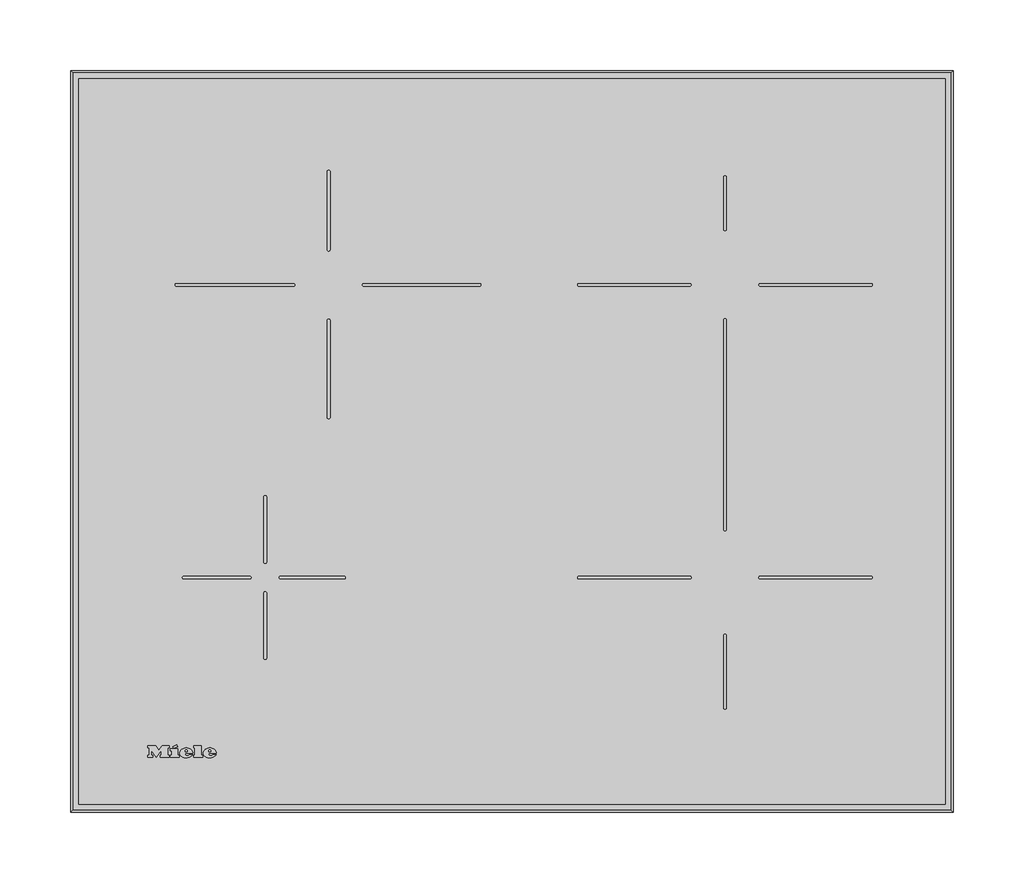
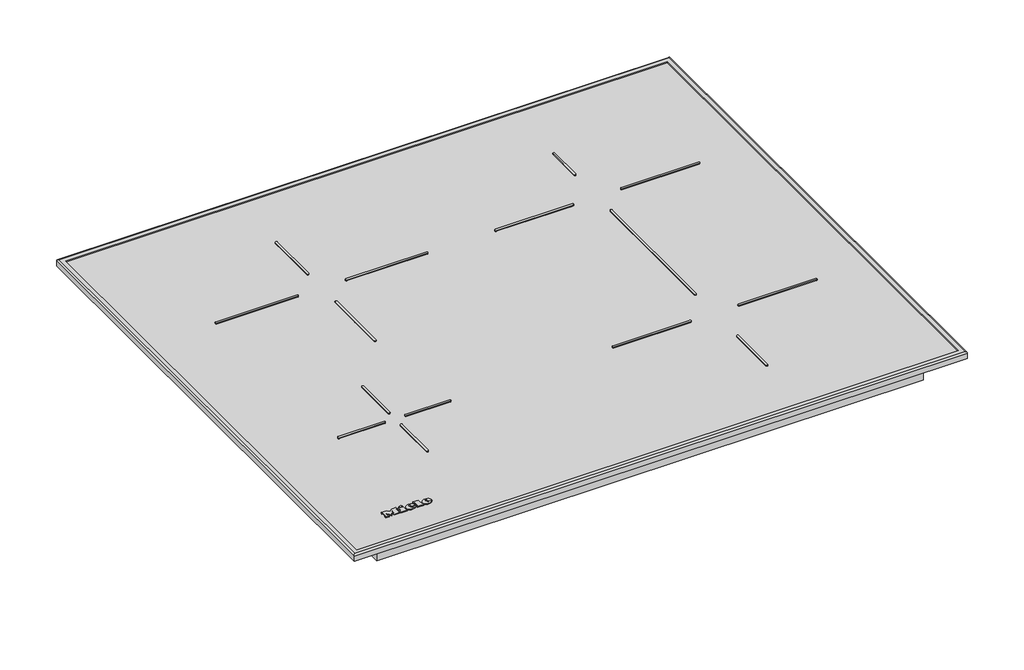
# Not in any storey: 1 proxy.
"""IFC4 building model written with IfcOpenShell, lengths in millimetres."""

import ifcopenshell
import ifcopenshell.guid

model = None  # the IFC model being written
_history = None  # IfcOwnerHistory: only IFC2X3 demands one
_inside = {}  # id of a spatial element -> (the spatial element, [elements in it])
_under = {}  # id of a project, library or spatial element -> (it, [spatial elements below it])
_declared = {}  # id of a project -> (the project, [libraries it declares])
_typed = {}  # id of a type object -> (the type object, [elements of that type])
_made_of = {}  # id of a material, layer set ... -> (it, [elements and type objects made of it])


def new_model(schema):
    """Start an empty IFC model of exactly this schema.

    Asked for "IFC4X3", IfcOpenShell would pick the latest addendum, in which some entities
    have other attributes; the version numbers below select the first issue.
    IFC2X3 requires an IfcOwnerHistory on every rooted entity: one is made here for all.
    """
    global model, _history
    if schema == "IFC4X3":
        model = ifcopenshell.file(schema_version=(4, 3, 0, 0))
    else:
        model = ifcopenshell.file(schema=schema)
    _inside.clear()
    _under.clear()
    _declared.clear()
    _typed.clear()
    _made_of.clear()
    _history = None
    if model.schema == "IFC2X3":
        org = make("IfcOrganization", Name="unknown")
        user = make(
            "IfcPersonAndOrganization",
            ThePerson=make("IfcPerson", FamilyName="unknown"),
            TheOrganization=org,
        )
        app = make(
            "IfcApplication",
            ApplicationDeveloper=org,
            Version="unknown",
            ApplicationFullName="unknown",
            ApplicationIdentifier="unknown",
        )
        _history = make(
            "IfcOwnerHistory",
            OwningUser=user,
            OwningApplication=app,
            ChangeAction="ADDED",
            CreationDate=0,
        )
    return model


def make(cls, **values):
    """One entity of the class cls with the attributes given. An attribute that is None is left unset."""
    return model.create_entity(
        cls, **{name: value for name, value in values.items() if value is not None}
    )


def rooted(cls, **values):
    """An entity with a GlobalId (a new one), such as an element, a storey or a relation."""
    return make(cls, GlobalId=ifcopenshell.guid.new(), OwnerHistory=_history, **values)


def si_unit(unit_type, name, prefix=None):
    """IfcSIUnit, for example si_unit("LENGTHUNIT", "METRE", prefix="MILLI")."""
    return make("IfcSIUnit", UnitType=unit_type, Prefix=prefix, Name=name)


def assignment(units):
    """IfcUnitAssignment: the units of a project."""
    return None if units is None else make("IfcUnitAssignment", Units=units)


def point(xyz):
    """IfcCartesianPoint."""
    return None if xyz is None else make("IfcCartesianPoint", Coordinates=xyz)


def direction(xyz):
    """IfcDirection."""
    return None if xyz is None else make("IfcDirection", DirectionRatios=xyz)


def frame(location, z_axis=None, x_axis=None):
    """IfcAxis2Placement3D, a coordinate frame: its origin and axes. An axis left out is left unset."""
    return make(
        "IfcAxis2Placement3D",
        Location=point(location),
        Axis=direction(z_axis),
        RefDirection=direction(x_axis),
    )


def frame_2d(location, x_axis=None):
    """IfcAxis2Placement2D, a coordinate frame in the plane: its origin and x axis."""
    return make(
        "IfcAxis2Placement2D", Location=point(location), RefDirection=direction(x_axis)
    )


def origin():
    """The frame at (0, 0, 0) with its axes left unset."""
    return frame((0.0, 0.0, 0.0))


def origin_with_axes():
    """The frame at (0, 0, 0) with the z axis (0, 0, 1) and the x axis (1, 0, 0) written out."""
    return frame((0.0, 0.0, 0.0), z_axis=(0.0, 0.0, 1.0), x_axis=(1.0, 0.0, 0.0))


def place(relative_to, where):
    """IfcLocalPlacement: puts the frame where relative to a parent placement (None: the world)."""
    return make(
        "IfcLocalPlacement", PlacementRelTo=relative_to, RelativePlacement=where
    )


def context(
    kind, dimensions, precision=None, world=None, true_north=None, identifier=None
):
    """IfcGeometricRepresentationContext, for example the 3D "Model" context."""
    return make(
        "IfcGeometricRepresentationContext",
        ContextIdentifier=identifier,
        ContextType=kind,
        CoordinateSpaceDimension=dimensions,
        Precision=precision,
        WorldCoordinateSystem=world,
        TrueNorth=true_north,
    )


def project(units=None, contexts=None):
    """IfcProject with its units and contexts."""
    return rooted(
        "IfcProject",
        Name="project",
        RepresentationContexts=contexts,
        UnitsInContext=assignment(units),
    )


def spatial(cls, under=None, at=None, **own):
    """A site, building, storey or space (cls), placed at a placement, below another one or the project."""
    s = rooted(cls, ObjectPlacement=at, **own)
    if under is not None:
        _under.setdefault(under.id(), (under, []))[1].append(s)
    return s


def polyline(points):
    """IfcPolyline through the points."""
    return make("IfcPolyline", Points=[point(p) for p in points])


def circle_curve(where, radius):
    """IfcCircle in the frame where."""
    return make("IfcCircle", Position=where, Radius=radius)


def ellipse_curve(where, semi_axis1, semi_axis2):
    """IfcEllipse in the frame where."""
    return make(
        "IfcEllipse", Position=where, SemiAxis1=semi_axis1, SemiAxis2=semi_axis2
    )


def trimmed(basis, trim1, trim2, sense, master):
    """IfcTrimmedCurve: the piece of a basis curve between two trims."""
    return make(
        "IfcTrimmedCurve",
        BasisCurve=basis,
        Trim1=trim1,
        Trim2=trim2,
        SenseAgreement=sense,
        MasterRepresentation=master,
    )


def segment(curve, same_sense, transition):
    """IfcCompositeCurveSegment."""
    return make(
        "IfcCompositeCurveSegment",
        Transition=transition,
        SameSense=same_sense,
        ParentCurve=curve,
    )


def composite_curve(segments, self_intersect=None):
    """IfcCompositeCurve: segments joined end to end."""
    return make("IfcCompositeCurve", Segments=segments, SelfIntersect=self_intersect)


def outline(outer, holes=None, kind="AREA"):
    """IfcArbitraryClosedProfileDef: a profile drawn as a closed curve; with holes, ...WithVoids."""
    if holes is None:
        return make("IfcArbitraryClosedProfileDef", ProfileType=kind, OuterCurve=outer)
    return make(
        "IfcArbitraryProfileDefWithVoids",
        ProfileType=kind,
        OuterCurve=outer,
        InnerCurves=holes,
    )


def extrude(swept, where, along, depth):
    """IfcExtrudedAreaSolid: the profile swept, set in the frame where, extruded along a direction by depth."""
    return make(
        "IfcExtrudedAreaSolid",
        SweptArea=swept,
        Position=where,
        ExtrudedDirection=direction(along),
        Depth=depth,
    )


def shape(context_of_items, identifier, shape_type, items):
    """IfcShapeRepresentation: the items that make up one representation, for example the "Body"."""
    return make(
        "IfcShapeRepresentation",
        ContextOfItems=context_of_items,
        RepresentationIdentifier=identifier,
        RepresentationType=shape_type,
        Items=items,
    )


def source(mapping_origin, context_of_items, identifier, shape_type, items):
    """IfcRepresentationMap: a shape defined once, which mapped items show again and again."""
    return make(
        "IfcRepresentationMap",
        MappingOrigin=mapping_origin,
        MappedRepresentation=shape(context_of_items, identifier, shape_type, items),
    )


def transform(
    local_origin,
    x_axis=None,
    y_axis=None,
    z_axis=None,
    scale=None,
    scale2=None,
    scale3=None,
    uniform=True,
):
    """IfcCartesianTransformationOperator3D, or its non-uniform kind. x_axis, y_axis, z_axis: its Axis1, 2, 3."""
    if uniform:
        return make(
            "IfcCartesianTransformationOperator3D",
            Axis1=direction(x_axis),
            Axis2=direction(y_axis),
            LocalOrigin=point(local_origin),
            Scale=scale,
            Axis3=direction(z_axis),
        )
    return make(
        "IfcCartesianTransformationOperator3DnonUniform",
        Axis1=direction(x_axis),
        Axis2=direction(y_axis),
        LocalOrigin=point(local_origin),
        Scale=scale,
        Axis3=direction(z_axis),
        Scale2=scale2,
        Scale3=scale3,
    )


def mapped(mapping_source, mapping_target):
    """IfcMappedItem: shows the shape of a source again, moved by a transform."""
    return make(
        "IfcMappedItem", MappingSource=mapping_source, MappingTarget=mapping_target
    )


def made_of(thing, what):
    """Note that an element or type object is made of a material, layer set ...; save() writes the relation."""
    if what is not None:
        _made_of.setdefault(what.id(), (what, []))[1].append(thing)
    return thing


def element(
    cls,
    number,
    at=None,
    inside=None,
    cuts=None,
    type_object=None,
    material=None,
    context=None,
    identifier="Body",
    shape_type=None,
    held_by="IfcProductDefinitionShape",
    body=None,
    shapes=None,
    **own,
):
    """One element of the class cls, such as IfcWall. Its Tag is "e" and its number.

    at: its placement. inside: the storey or other place that contains it. cuts: it is an
    opening in that element (IfcRelVoidsElement). A single representation is given by context,
    identifier, shape_type and body (its items); several are given by shapes. held_by: the class
    of the entity that holds the representations. save() writes the other relations.
    """
    e = rooted(cls, Tag="e%d" % number, ObjectPlacement=at, **own)
    if body is not None:
        shapes = [shape(context, identifier, shape_type, body)]
    if shapes is not None:
        e.Representation = make(held_by, Representations=shapes)
    if inside is not None:
        _inside.setdefault(inside.id(), (inside, []))[1].append(e)
    if cuts is not None:
        rooted(
            "IfcRelVoidsElement", RelatingBuildingElement=cuts, RelatedOpeningElement=e
        )
    if type_object is not None:
        _typed.setdefault(type_object.id(), (type_object, []))[1].append(e)
    return made_of(e, material)


def aggregate(whole, parts):
    """IfcRelAggregates: a whole, such as a stair, and the parts it consists of."""
    return rooted("IfcRelAggregates", RelatingObject=whole, RelatedObjects=parts)


def save(model, path):
    """Write the relations noted so far, then the file.

    IfcRelAggregates (storeys below a building ...), IfcRelContainedInSpatialStructure (elements
    in a storey), IfcRelDefinesByType, IfcRelAssociatesMaterial and IfcRelDeclares: one each for
    every whole, place, type object, material and project.
    """
    for whole, parts in _under.values():
        aggregate(whole, parts)
    for where, things in _inside.values():
        rooted(
            "IfcRelContainedInSpatialStructure",
            RelatedElements=things,
            RelatingStructure=where,
        )
    for kind, things in _typed.values():
        rooted("IfcRelDefinesByType", RelatedObjects=things, RelatingType=kind)
    for what, things in _made_of.values():
        rooted("IfcRelAssociatesMaterial", RelatedObjects=things, RelatingMaterial=what)
    for by, libraries in _declared.values():
        rooted("IfcRelDeclares", RelatingContext=by, RelatedDefinitions=libraries)
    model.write(path)


def plane_surface(at):
    """IfcPlane: the flat surface through the origin of the frame at, square to its z axis."""
    return make("IfcPlane", Position=at)


def cylinder_surface(at, radius):
    """IfcCylindricalSurface: all points at the distance radius from the z axis of the frame at."""
    return make("IfcCylindricalSurface", Position=at, Radius=radius)


def revolved_surface(curve, axis_point, axis_direction):
    """IfcSurfaceOfRevolution: the curve turned about the line through axis_point along axis_direction."""
    return make(
        "IfcSurfaceOfRevolution",
        SweptCurve=make("IfcArbitraryOpenProfileDef", ProfileType="CURVE", Curve=curve),
        AxisPosition=make("IfcAxis1Placement", Location=point(axis_point), Axis=direction(axis_direction)),
    )


def extruded_surface(curve, direction_of_extrusion, depth):
    """IfcSurfaceOfLinearExtrusion: the curve pushed along a direction by depth."""
    return make(
        "IfcSurfaceOfLinearExtrusion",
        SweptCurve=make("IfcArbitraryOpenProfileDef", ProfileType="CURVE", Curve=curve),
        ExtrudedDirection=direction(direction_of_extrusion),
        Depth=depth,
    )


def advanced_brep(points, edges, surfaces, faces):
    """IfcAdvancedBrep: a solid bounded by faces that lie on surfaces and meet in shared edges.

    An edge is (start, end): straight between two places in points (the first is 0);
    or (start, end, curve); or (start, end, curve, False) where it runs against its curve.
    A face is (place in surfaces, loops), or (place, loops, False) where it looks against
    its surface's normal. A loop lists edges by number (the first is 1), with a minus sign
    where the edge is run from its end to its start. The first loop is the outer one.
    """
    corners = [point(p) for p in points]
    vertices = [make("IfcVertexPoint", VertexGeometry=c) for c in corners]
    made = []
    for start, end, *more in edges:
        made.append(
            make(
                "IfcEdgeCurve",
                EdgeStart=vertices[start],
                EdgeEnd=vertices[end],
                EdgeGeometry=more[0] if more else make("IfcPolyline", Points=[corners[start], corners[end]]),
                SameSense=more[1] if len(more) > 1 else True,
            )
        )
    hull = []
    for where, loops, *sense in faces:
        bounds = []
        for j, loop in enumerate(loops):
            ring = [make("IfcOrientedEdge", EdgeElement=made[abs(k) - 1], Orientation=k > 0) for k in loop]
            bounds.append(
                make(
                    "IfcFaceOuterBound" if j == 0 else "IfcFaceBound",
                    Bound=make("IfcEdgeLoop", EdgeList=ring),
                    Orientation=True,
                )
            )
        hull.append(make("IfcAdvancedFace", Bounds=bounds, FaceSurface=surfaces[where], SameSense=sense[0] if sense else True))
    return make("IfcAdvancedBrep", Outer=make("IfcClosedShell", CfsFaces=hull))


def specialty_equipment_649d066a(model_context):
    return source(origin(), model_context, "Body", "SolidModel", [
        advanced_brep(
        [(-214.911984, 41.066, 5.0000007), (-214.911984, 41.874, 5.0000007), (-209.559984, 41.874, 5.0000007), (-218.871984, 41.874, 5.0000007), (-216.671984, 39.17, 5.0000007), (-209.695984, 41.066, 5.0000007), (-212.111984, 41.066, 5.0000007), (-214.015984, 40.17, 5.0000007), (-214.911984, 42.898, 5.0000007), (-214.911984, 43.77, 5.0000007), (-213.543984, 43.77, 5.0000007), (-213.543984, 42.898, 5.0000007), (-214.911984, 41.066, 4.0000007), (-214.015984, 40.17, 4.0000007), (-212.111984, 41.066, 4.0000007), (-209.695984, 41.066, 4.0000007), (-216.671984, 39.17, 4.0000007), (-218.871984, 41.874, 4.0000007), (-209.559984, 41.874, 4.0000007), (-214.911984, 41.874, 4.0000007), (-214.911984, 42.898, 4.0000007), (-213.543984, 42.898, 4.0000007), (-213.543984, 43.77, 4.0000007), (-214.911984, 43.77, 4.0000007)],
        [
            (0, 1),
            (1, 2),
            (2, 3, ellipse_curve(frame((-214.215984, 41.874, 5.0000007), z_axis=(0.0, 0.0, 1.0), x_axis=(-1.0, 0.0, 0.0)), 4.656, 3.848)),
            (3, 4, circle_curve(frame((-215.7759404, 42.146, 5.0000007), z_axis=(0.0, 0.0, 1.0), x_axis=(0.0, -1.0, 0.0)), 3.1079688)),
            (4, 5, circle_curve(frame((-214.3091904, 44.258, 5.0000007), z_axis=(0.0, 0.0, 1.0), x_axis=(0.0, -1.0, 0.0)), 5.6098607)),
            (5, 6),
            (6, 7, circle_curve(frame((-213.6249252, 41.81, 5.0000007), z_axis=(0.0, 0.0, -1.0), x_axis=(0.0, -1.0, 0.0)), 1.6859795)),
            (7, 0, circle_curve(frame((-214.015984, 41.066, 5.0000007), z_axis=(0.0, 0.0, -1.0), x_axis=(0.0, -1.0, 0.0)), 0.896)),
            (8, 9),
            (9, 10, circle_curve(frame((-214.227984, 43.77, 5.0000007), z_axis=(0.0, 0.0, -1.0), x_axis=(0.0, -1.0, 0.0)), 0.684)),
            (10, 11),
            (11, 8),
            (12, 13, circle_curve(frame((-214.015984, 41.066, 4.0000007), z_axis=(0.0, 0.0, 1.0), x_axis=(0.0, -1.0, 0.0)), 0.896)),
            (13, 14, circle_curve(frame((-213.6249252, 41.81, 4.0000007), z_axis=(0.0, 0.0, 1.0), x_axis=(0.0, -1.0, 0.0)), 1.6859795)),
            (14, 15),
            (15, 16, circle_curve(frame((-214.3091904, 44.258, 4.0000007), z_axis=(0.0, 0.0, -1.0), x_axis=(0.0, -1.0, 0.0)), 5.6098607)),
            (16, 17, circle_curve(frame((-215.7759404, 42.146, 4.0000007), z_axis=(0.0, 0.0, -1.0), x_axis=(0.0, -1.0, 0.0)), 3.1079688)),
            (17, 18, ellipse_curve(frame((-214.215984, 41.874, 4.0000007), z_axis=(0.0, 0.0, -1.0), x_axis=(-1.0, 0.0, 0.0)), 4.656, 3.848)),
            (18, 19),
            (19, 12),
            (20, 21),
            (21, 22),
            (22, 23, circle_curve(frame((-214.227984, 43.77, 4.0000007), z_axis=(0.0, 0.0, 1.0), x_axis=(0.0, -1.0, 0.0)), 0.684)),
            (23, 20),
            (0, 12),
            (19, 1),
            (18, 2),
            (5, 15),
            (14, 6),
            (17, 3),
            (13, 7),
            (16, 4),
            (8, 20),
            (23, 9),
            (22, 10),
            (21, 11),
        ],
        [
            plane_surface(frame((-214.911984, 41.874, 5.0000007), z_axis=(0.0, 0.0, 1.0), x_axis=(0.0, 1.0, 0.0))),
            plane_surface(frame((-214.911984, 41.874, 4.0000007), z_axis=(0.0, 0.0, -1.0), x_axis=(0.0, -1.0, 0.0))),
            plane_surface(frame((-214.911984, 41.066, 5.0000007), z_axis=(1.0, 0.0, 0.0), x_axis=(0.0, 0.0, -1.0))),
            plane_surface(frame((-214.911984, 41.874, 5.0000007), z_axis=(0.0, -1.0, 0.0), x_axis=(0.0, 0.0, -1.0))),
            plane_surface(frame((-209.695984, 41.066, 5.0000007), z_axis=(0.0, 1.0, 0.0), x_axis=(0.0, 0.0, -1.0))),
            extruded_surface(trimmed(ellipse_curve(frame((-214.215984, 41.874, 3.0000007), z_axis=(0.0, 0.0, 1.0), x_axis=(-1.0, 0.0, 0.0)), 4.656, 3.848), [point((-209.559984, 41.874, 3.0000007))], [point((-218.871984, 41.874, 3.0000007))], True, "CARTESIAN"), (0.0, 0.0, 1.0), 1.0),
            revolved_surface(polyline([(-213.6249252, 40.1240205, 4.0000007), (-213.6249252, 40.1240205, 5.0000007)]), (-213.6249252, 41.81, 4.0000007), (0.0, 0.0, -1.0)),
            revolved_surface(polyline([(-214.015984, 40.17, 4.0000007), (-214.015984, 40.17, 5.0000007)]), (-214.015984, 41.066, 4.0000007), (0.0, 0.0, -1.0)),
            cylinder_surface(frame((-215.7759404, 42.146, 4.0000007), z_axis=(0.0, 0.0, 1.0), x_axis=(0.0, -1.0, 0.0)), 3.1079688),
            cylinder_surface(frame((-214.3091904, 44.258, 4.0000007), z_axis=(0.0, 0.0, 1.0), x_axis=(0.0, -1.0, 0.0)), 5.6098607),
            plane_surface(frame((-214.911984, 42.898, 5.0000007), z_axis=(1.0, 0.0, 0.0), x_axis=(0.0, 0.0, -1.0))),
            revolved_surface(polyline([(-214.227984, 43.086000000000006, 4.0000007), (-214.227984, 43.086000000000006, 5.0000007)]), (-214.227984, 43.77, 4.0000007), (0.0, 0.0, -1.0)),
            plane_surface(frame((-213.543984, 43.77, 5.0000007), z_axis=(-1.0, 0.0, 0.0), x_axis=(0.0, 0.0, -1.0))),
            plane_surface(frame((-213.543984, 42.898, 5.0000007), z_axis=(0.0, 1.0, 0.0), x_axis=(0.0, 0.0, -1.0))),
        ],
        [
            (0, [[1, 2, 3, 4, 5, 6, 7, 8], [9, 10, 11, 12]]),
            (1, [[13, 14, 15, 16, 17, 18, 19, 20], [21, 22, 23, 24]]),
            (2, [[-1, 25, -20, 26]]),
            (3, [[-2, -26, -19, 27]]),
            (4, [[-6, 28, -15, 29]]),
            (5, [[-3, -27, -18, 30]]),
            (6, [[-7, -29, -14, 31]]),
            (7, [[-8, -31, -13, -25]]),
            (8, [[-4, -30, -17, 32]]),
            (9, [[-5, -32, -16, -28]]),
            (10, [[-9, 33, -24, 34]]),
            (11, [[-10, -34, -23, 35]]),
            (12, [[-11, -35, -22, 36]]),
            (13, [[-12, -36, -21, -33]]),
        ],
    ),
        advanced_brep(
        [(-231.607984, 41.066, 5.0000007), (-231.607984, 41.874, 5.0000007), (-226.255984, 41.874, 5.0000007), (-235.567984, 41.874, 5.0000007), (-233.367984, 39.17, 5.0000007), (-226.391984, 41.066, 5.0000007), (-228.807984, 41.066, 5.0000007), (-230.711984, 40.17, 5.0000007), (-231.607984, 42.898, 5.0000007), (-231.607984, 43.77, 5.0000007), (-230.239984, 43.77, 5.0000007), (-230.239984, 42.898, 5.0000007), (-231.607984, 41.066, 4.0000007), (-230.711984, 40.17, 4.0000007), (-228.807984, 41.066, 4.0000007), (-226.391984, 41.066, 4.0000007), (-233.367984, 39.17, 4.0000007), (-235.567984, 41.874, 4.0000007), (-226.255984, 41.874, 4.0000007), (-231.607984, 41.874, 4.0000007), (-231.607984, 42.898, 4.0000007), (-230.239984, 42.898, 4.0000007), (-230.239984, 43.77, 4.0000007), (-231.607984, 43.77, 4.0000007)],
        [
            (0, 1),
            (1, 2),
            (2, 3, ellipse_curve(frame((-230.911984, 41.874, 5.0000007), z_axis=(0.0, 0.0, 1.0), x_axis=(-1.0, 0.0, 0.0)), 4.656, 3.848)),
            (3, 4, circle_curve(frame((-232.4719404, 42.146, 5.0000007), z_axis=(0.0, 0.0, 1.0), x_axis=(0.0, -1.0, 0.0)), 3.1079688)),
            (4, 5, circle_curve(frame((-231.0051904, 44.258, 5.0000007), z_axis=(0.0, 0.0, 1.0), x_axis=(0.0, -1.0, 0.0)), 5.6098607)),
            (5, 6),
            (6, 7, circle_curve(frame((-230.3209252, 41.81, 5.0000007), z_axis=(0.0, 0.0, -1.0), x_axis=(0.0, -1.0, 0.0)), 1.6859795)),
            (7, 0, circle_curve(frame((-230.711984, 41.066, 5.0000007), z_axis=(0.0, 0.0, -1.0), x_axis=(0.0, -1.0, 0.0)), 0.896)),
            (8, 9),
            (9, 10, circle_curve(frame((-230.923984, 43.77, 5.0000007), z_axis=(0.0, 0.0, -1.0), x_axis=(0.0, -1.0, 0.0)), 0.684)),
            (10, 11),
            (11, 8),
            (12, 13, circle_curve(frame((-230.711984, 41.066, 4.0000007), z_axis=(0.0, 0.0, 1.0), x_axis=(0.0, -1.0, 0.0)), 0.896)),
            (13, 14, circle_curve(frame((-230.3209252, 41.81, 4.0000007), z_axis=(0.0, 0.0, 1.0), x_axis=(0.0, -1.0, 0.0)), 1.6859795)),
            (14, 15),
            (15, 16, circle_curve(frame((-231.0051904, 44.258, 4.0000007), z_axis=(0.0, 0.0, -1.0), x_axis=(0.0, -1.0, 0.0)), 5.6098607)),
            (16, 17, circle_curve(frame((-232.4719404, 42.146, 4.0000007), z_axis=(0.0, 0.0, -1.0), x_axis=(0.0, -1.0, 0.0)), 3.1079688)),
            (17, 18, ellipse_curve(frame((-230.911984, 41.874, 4.0000007), z_axis=(0.0, 0.0, -1.0), x_axis=(-1.0, 0.0, 0.0)), 4.656, 3.848)),
            (18, 19),
            (19, 12),
            (20, 21),
            (21, 22),
            (22, 23, circle_curve(frame((-230.923984, 43.77, 4.0000007), z_axis=(0.0, 0.0, 1.0), x_axis=(0.0, -1.0, 0.0)), 0.684)),
            (23, 20),
            (0, 12),
            (19, 1),
            (18, 2),
            (5, 15),
            (14, 6),
            (17, 3),
            (13, 7),
            (16, 4),
            (8, 20),
            (23, 9),
            (22, 10),
            (21, 11),
        ],
        [
            plane_surface(frame((-231.607984, 41.874, 5.0000007), z_axis=(0.0, 0.0, 1.0), x_axis=(0.0, 1.0, 0.0))),
            plane_surface(frame((-231.607984, 41.874, 4.0000007), z_axis=(0.0, 0.0, -1.0), x_axis=(0.0, -1.0, 0.0))),
            plane_surface(frame((-231.607984, 41.066, 5.0000007), z_axis=(1.0, 0.0, 0.0), x_axis=(0.0, 0.0, -1.0))),
            plane_surface(frame((-231.607984, 41.874, 5.0000007), z_axis=(0.0, -1.0, 0.0), x_axis=(0.0, 0.0, -1.0))),
            plane_surface(frame((-226.391984, 41.066, 5.0000007), z_axis=(0.0, 1.0, 0.0), x_axis=(0.0, 0.0, -1.0))),
            extruded_surface(trimmed(ellipse_curve(frame((-230.911984, 41.874, 3.0000007), z_axis=(0.0, 0.0, 1.0), x_axis=(-1.0, 0.0, 0.0)), 4.656, 3.848), [point((-226.255984, 41.874, 3.0000007))], [point((-235.567984, 41.874, 3.0000007))], True, "CARTESIAN"), (0.0, 0.0, 1.0), 1.0),
            revolved_surface(polyline([(-230.3209252, 40.1240205, 4.0000007), (-230.3209252, 40.1240205, 5.0000007)]), (-230.3209252, 41.81, 4.0000007), (0.0, 0.0, -1.0)),
            revolved_surface(polyline([(-230.711984, 40.17, 4.0000007), (-230.711984, 40.17, 5.0000007)]), (-230.711984, 41.066, 4.0000007), (0.0, 0.0, -1.0)),
            cylinder_surface(frame((-232.4719404, 42.146, 4.0000007), z_axis=(0.0, 0.0, 1.0), x_axis=(0.0, -1.0, 0.0)), 3.1079688),
            cylinder_surface(frame((-231.0051904, 44.258, 4.0000007), z_axis=(0.0, 0.0, 1.0), x_axis=(0.0, -1.0, 0.0)), 5.6098607),
            plane_surface(frame((-231.607984, 42.898, 5.0000007), z_axis=(1.0, 0.0, 0.0), x_axis=(0.0, 0.0, -1.0))),
            revolved_surface(polyline([(-230.923984, 43.086000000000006, 4.0000007), (-230.923984, 43.086000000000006, 5.0000007)]), (-230.923984, 43.77, 4.0000007), (0.0, 0.0, -1.0)),
            plane_surface(frame((-230.239984, 43.77, 5.0000007), z_axis=(-1.0, 0.0, 0.0), x_axis=(0.0, 0.0, -1.0))),
            plane_surface(frame((-230.239984, 42.898, 5.0000007), z_axis=(0.0, 1.0, 0.0), x_axis=(0.0, 0.0, -1.0))),
        ],
        [
            (0, [[1, 2, 3, 4, 5, 6, 7, 8], [9, 10, 11, 12]]),
            (1, [[13, 14, 15, 16, 17, 18, 19, 20], [21, 22, 23, 24]]),
            (2, [[-1, 25, -20, 26]]),
            (3, [[-2, -26, -19, 27]]),
            (4, [[-6, 28, -15, 29]]),
            (5, [[-3, -27, -18, 30]]),
            (6, [[-7, -29, -14, 31]]),
            (7, [[-8, -31, -13, -25]]),
            (8, [[-4, -30, -17, 32]]),
            (9, [[-5, -32, -16, -28]]),
            (10, [[-9, 33, -24, 34]]),
            (11, [[-10, -34, -23, 35]]),
            (12, [[-11, -35, -22, 36]]),
            (13, [[-12, -36, -21, -33]]),
        ],
    ),
        extrude(outline(polyline([(-240.351984, 46.698), (-237.631984, 47.962), (-237.031984, 46.666), (-239.743984, 45.402), (-240.351984, 46.698)])), frame((0.0, 0.0, 4.0000007), z_axis=(0.0, 0.0, 1.0), x_axis=(1.0, 0.0, 0.0)), (0.0, 0.0, 1.0), 1.0),
        extrude(outline(polyline([(-242.327984, 45.226), (-236.943984, 45.226), (-236.943984, 40.514), (-236.015984, 40.514), (-236.015984, 39.17), (-242.327984, 39.17), (-242.327984, 40.514), (-241.375984, 40.514), (-241.375984, 43.794), (-242.327984, 43.794), (-242.327984, 45.226)])), frame((0.0, 0.0, 4.0000007), z_axis=(0.0, 0.0, 1.0), x_axis=(1.0, 0.0, 0.0)), (0.0, 0.0, 1.0), 1.0),
        extrude(outline(polyline([(-225.807984, 45.866), (-225.807984, 47.17), (-220.303984, 47.17), (-220.303984, 40.514), (-219.319984, 40.514), (-219.319984, 39.17), (-225.807984, 39.17), (-225.807984, 40.514), (-224.847984, 40.514), (-224.847984, 45.866), (-225.807984, 45.866)])), frame((0.0, 0.0, 4.0000007), z_axis=(0.0, 0.0, 1.0), x_axis=(1.0, 0.0, 0.0)), (0.0, 0.0, 1.0), 1.0),
        extrude(outline(polyline([(-258.271984, 45.866), (-258.271984, 47.17), (-252.695984, 47.17), (-250.351984, 44.17), (-248.015984, 47.17), (-243.143984, 47.17), (-243.143984, 45.866), (-244.159984, 45.866), (-244.159984, 40.514), (-243.143984, 40.514), (-243.143984, 39.17), (-249.527984, 39.17), (-249.527984, 40.514), (-248.543984, 40.514), (-248.543984, 43.9852223), (-252.135984, 39.17), (-255.711984, 43.9171247), (-255.711984, 40.514), (-254.751984, 40.514), (-254.751984, 39.17), (-258.271984, 39.17), (-258.271984, 40.514), (-257.303984, 40.514), (-257.303984, 45.866), (-258.271984, 45.866)])), frame((0.0, 0.0, 4.0000007), z_axis=(0.0, 0.0, 1.0), x_axis=(1.0, 0.0, 0.0)), (0.0, 0.0, 1.0), 1.0),
        extrude(outline(composite_curve([segment(trimmed(circle_curve(frame_2d((-130.0, 454.215881)), 1.0), [point((-131.0, 454.215881))], [point((-129.0, 454.215881))], False, "CARTESIAN"), True, "CONTINUOUS"), segment(polyline([(-129.0, 454.215881), (-129.0, 399.0)]), True, "CONTINUOUS"), segment(trimmed(circle_curve(frame_2d((-130.0, 399.0)), 1.0), [point((-129.0, 399.0))], [point((-131.0, 399.0))], False, "CARTESIAN"), True, "CONTINUOUS"), segment(polyline([(-131.0, 399.0), (-131.0, 454.215881)]), True, "CONTINUOUS")], self_intersect=False)), frame((0.0, 0.0, 4.0000007), z_axis=(0.0, 0.0, 1.0), x_axis=(1.0, 0.0, 0.0)), (0.0, 0.0, 1.0), 1.0),
        extrude(outline(composite_curve([segment(polyline([(-23.0464469, 373.0), (-105.0, 373.0)]), True, "CONTINUOUS"), segment(trimmed(circle_curve(frame_2d((-105.0, 374.0)), 1.0), [point((-105.0, 373.0))], [point((-105.0, 375.0))], False, "CARTESIAN"), True, "CONTINUOUS"), segment(polyline([(-105.0, 375.0), (-23.0464469, 375.0)]), True, "CONTINUOUS"), segment(trimmed(circle_curve(frame_2d((-23.0464469, 374.0)), 1.0), [point((-23.0464469, 375.0))], [point((-23.0464469, 373.0))], False, "CARTESIAN"), True, "CONTINUOUS")], self_intersect=False)), frame((0.0, 0.0, 4.0000007), z_axis=(0.0, 0.0, 1.0), x_axis=(1.0, 0.0, 0.0)), (0.0, 0.0, 1.0), 1.0),
        extrude(outline(composite_curve([segment(trimmed(circle_curve(frame_2d((-237.9080744, 374.0)), 1.0), [point((-237.9080744, 373.0))], [point((-237.9080744, 375.0))], False, "CARTESIAN"), True, "CONTINUOUS"), segment(polyline([(-237.9080744, 375.0), (-155.0, 375.0)]), True, "CONTINUOUS"), segment(trimmed(circle_curve(frame_2d((-155.0, 374.0)), 1.0), [point((-155.0, 375.0))], [point((-155.0, 373.0))], False, "CARTESIAN"), True, "CONTINUOUS"), segment(polyline([(-155.0, 373.0), (-237.9080744, 373.0)]), True, "CONTINUOUS")], self_intersect=False)), frame((0.0, 0.0, 4.0000007), z_axis=(0.0, 0.0, 1.0), x_axis=(1.0, 0.0, 0.0)), (0.0, 0.0, 1.0), 1.0),
        extrude(outline(composite_curve([segment(polyline([(-176.0, 177.5), (-176.0, 223.6606747)]), True, "CONTINUOUS"), segment(trimmed(circle_curve(frame_2d((-175.0, 223.6606747)), 1.0), [point((-176.0, 223.6606747))], [point((-174.0, 223.6606747))], False, "CARTESIAN"), True, "CONTINUOUS"), segment(polyline([(-174.0, 223.6606747), (-174.0, 177.5)]), True, "CONTINUOUS"), segment(trimmed(circle_curve(frame_2d((-175.0, 177.5)), 1.0), [point((-174.0, 177.5))], [point((-176.0, 177.5))], False, "CARTESIAN"), True, "CONTINUOUS")], self_intersect=False)), frame((0.0, 0.0, 4.0000007), z_axis=(0.0, 0.0, 1.0), x_axis=(1.0, 0.0, 0.0)), (0.0, 0.0, 1.0), 1.0),
        extrude(outline(composite_curve([segment(trimmed(circle_curve(frame_2d((-175.0, 155.4410817)), 1.0), [point((-176.0, 155.4410817))], [point((-174.0, 155.4410817))], False, "CARTESIAN"), True, "CONTINUOUS"), segment(polyline([(-174.0, 155.4410817), (-174.0, 109.5)]), True, "CONTINUOUS"), segment(trimmed(circle_curve(frame_2d((-175.0, 109.5)), 1.0), [point((-174.0, 109.5))], [point((-176.0, 109.5))], False, "CARTESIAN"), True, "CONTINUOUS"), segment(polyline([(-176.0, 109.5), (-176.0, 155.4410817)]), True, "CONTINUOUS")], self_intersect=False)), frame((0.0, 0.0, 4.0000007), z_axis=(0.0, 0.0, 1.0), x_axis=(1.0, 0.0, 0.0)), (0.0, 0.0, 1.0), 1.0),
        extrude(outline(composite_curve([segment(polyline([(150.0, 413.4860171), (150.0, 450.2771149)]), True, "CONTINUOUS"), segment(trimmed(circle_curve(frame_2d((151.0, 450.2771149)), 1.0), [point((150.0, 450.2771149))], [point((152.0, 450.2771149))], False, "CARTESIAN"), True, "CONTINUOUS"), segment(polyline([(152.0, 450.2771149), (152.0, 413.4860171)]), True, "CONTINUOUS"), segment(trimmed(circle_curve(frame_2d((151.0, 413.4860171)), 1.0), [point((152.0, 413.4860171))], [point((150.0, 413.4860171))], False, "CARTESIAN"), True, "CONTINUOUS")], self_intersect=False)), frame((0.0, 0.0, 4.0000007), z_axis=(0.0, 0.0, 1.0), x_axis=(1.0, 0.0, 0.0)), (0.0, 0.0, 1.0), 1.0),
        extrude(outline(composite_curve([segment(trimmed(circle_curve(frame_2d((-164.0, 166.5)), 1.0), [point((-164.0, 165.5))], [point((-164.0, 167.5))], False, "CARTESIAN"), True, "CONTINUOUS"), segment(polyline([(-164.0, 167.5), (-119.1108224, 167.5)]), True, "CONTINUOUS"), segment(trimmed(circle_curve(frame_2d((-119.1108224, 166.5)), 1.0), [point((-119.1108224, 167.5))], [point((-119.1108224, 165.5))], False, "CARTESIAN"), True, "CONTINUOUS"), segment(polyline([(-119.1108224, 165.5), (-164.0, 165.5)]), True, "CONTINUOUS")], self_intersect=False)), frame((0.0, 0.0, 4.0000007), z_axis=(0.0, 0.0, 1.0), x_axis=(1.0, 0.0, 0.0)), (0.0, 0.0, 1.0), 1.0),
        extrude(outline(composite_curve([segment(polyline([(-186.0, 165.5), (-232.6272894, 165.5)]), True, "CONTINUOUS"), segment(trimmed(circle_curve(frame_2d((-232.6272894, 166.5)), 1.0), [point((-232.6272894, 165.5))], [point((-232.6272894, 167.5))], False, "CARTESIAN"), True, "CONTINUOUS"), segment(polyline([(-232.6272894, 167.5), (-186.0, 167.5)]), True, "CONTINUOUS"), segment(trimmed(circle_curve(frame_2d((-186.0, 166.5)), 1.0), [point((-186.0, 167.5))], [point((-186.0, 165.5))], False, "CARTESIAN"), True, "CONTINUOUS")], self_intersect=False)), frame((0.0, 0.0, 4.0000007), z_axis=(0.0, 0.0, 1.0), x_axis=(1.0, 0.0, 0.0)), (0.0, 0.0, 1.0), 1.0),
        extrude(outline(composite_curve([segment(polyline([(126.0, 165.5), (47.5296024, 165.5)]), True, "CONTINUOUS"), segment(trimmed(circle_curve(frame_2d((47.5296024, 166.5)), 1.0), [point((47.5296024, 165.5))], [point((47.5296024, 167.5))], False, "CARTESIAN"), True, "CONTINUOUS"), segment(polyline([(47.5296024, 167.5), (126.0, 167.5)]), True, "CONTINUOUS"), segment(trimmed(circle_curve(frame_2d((126.0, 166.5)), 1.0), [point((126.0, 167.5))], [point((126.0, 165.5))], False, "CARTESIAN"), True, "CONTINUOUS")], self_intersect=False)), frame((0.0, 0.0, 4.0000007), z_axis=(0.0, 0.0, 1.0), x_axis=(1.0, 0.0, 0.0)), (0.0, 0.0, 1.0), 1.0),
        extrude(outline(composite_curve([segment(polyline([(150.0, 74.2663736), (150.0, 125.4452272)]), True, "CONTINUOUS"), segment(trimmed(circle_curve(frame_2d((151.0, 125.4452272)), 1.0), [point((150.0, 125.4452272))], [point((152.0, 125.4452272))], False, "CARTESIAN"), True, "CONTINUOUS"), segment(polyline([(152.0, 125.4452272), (152.0, 74.2663736)]), True, "CONTINUOUS"), segment(trimmed(circle_curve(frame_2d((151.0, 74.2663736)), 1.0), [point((152.0, 74.2663736))], [point((150.0, 74.2663736))], False, "CARTESIAN"), True, "CONTINUOUS")], self_intersect=False)), frame((0.0, 0.0, 4.0000007), z_axis=(0.0, 0.0, 1.0), x_axis=(1.0, 0.0, 0.0)), (0.0, 0.0, 1.0), 1.0),
        extrude(outline(composite_curve([segment(polyline([(152.0, 349.0843418), (152.0, 200.5399283)]), True, "CONTINUOUS"), segment(trimmed(circle_curve(frame_2d((151.0, 200.5399283)), 1.0), [point((152.0, 200.5399283))], [point((150.0, 200.5399283))], False, "CARTESIAN"), True, "CONTINUOUS"), segment(polyline([(150.0, 200.5399283), (150.0, 349.0843418)]), True, "CONTINUOUS"), segment(trimmed(circle_curve(frame_2d((151.0, 349.0843418)), 1.0), [point((150.0, 349.0843418))], [point((152.0, 349.0843418))], False, "CARTESIAN"), True, "CONTINUOUS")], self_intersect=False)), frame((0.0, 0.0, 4.0000007), z_axis=(0.0, 0.0, 1.0), x_axis=(1.0, 0.0, 0.0)), (0.0, 0.0, 1.0), 1.0),
        extrude(outline(composite_curve([segment(trimmed(circle_curve(frame_2d((176.0, 166.5)), 1.0), [point((176.0, 165.5))], [point((176.0, 167.5))], False, "CARTESIAN"), True, "CONTINUOUS"), segment(polyline([(176.0, 167.5), (254.4703976, 167.5)]), True, "CONTINUOUS"), segment(trimmed(circle_curve(frame_2d((254.4703976, 166.5)), 1.0), [point((254.4703976, 167.5))], [point((254.4703976, 165.5))], False, "CARTESIAN"), True, "CONTINUOUS"), segment(polyline([(254.4703976, 165.5), (176.0, 165.5)]), True, "CONTINUOUS")], self_intersect=False)), frame((0.0, 0.0, 4.0000007), z_axis=(0.0, 0.0, 1.0), x_axis=(1.0, 0.0, 0.0)), (0.0, 0.0, 1.0), 1.0),
        extrude(outline(composite_curve([segment(polyline([(125.9136914, 373.0), (47.444481, 373.0)]), True, "CONTINUOUS"), segment(trimmed(circle_curve(frame_2d((47.444481, 374.0)), 1.0), [point((47.444481, 373.0))], [point((47.444481, 375.0))], False, "CARTESIAN"), True, "CONTINUOUS"), segment(polyline([(47.444481, 375.0), (125.9136914, 375.0)]), True, "CONTINUOUS"), segment(trimmed(circle_curve(frame_2d((125.9136914, 374.0)), 1.0), [point((125.9136914, 375.0))], [point((125.9136914, 373.0))], False, "CARTESIAN"), True, "CONTINUOUS")], self_intersect=False)), frame((0.0, 0.0, 4.0000007), z_axis=(0.0, 0.0, 1.0), x_axis=(1.0, 0.0, 0.0)), (0.0, 0.0, 1.0), 1.0),
        extrude(outline(composite_curve([segment(trimmed(circle_curve(frame_2d((176.0863086, 374.0)), 1.0), [point((176.0863086, 373.0))], [point((176.0863086, 375.0))], False, "CARTESIAN"), True, "CONTINUOUS"), segment(polyline([(176.0863086, 375.0), (254.555519, 375.0)]), True, "CONTINUOUS"), segment(trimmed(circle_curve(frame_2d((254.555519, 374.0)), 1.0), [point((254.555519, 375.0))], [point((254.555519, 373.0))], False, "CARTESIAN"), True, "CONTINUOUS"), segment(polyline([(254.555519, 373.0), (176.0863086, 373.0)]), True, "CONTINUOUS")], self_intersect=False)), frame((0.0, 0.0, 4.0000007), z_axis=(0.0, 0.0, 1.0), x_axis=(1.0, 0.0, 0.0)), (0.0, 0.0, 1.0), 1.0),
        extrude(outline(composite_curve([segment(polyline([(-131.0, 280.1710047), (-131.0, 348.8348457)]), True, "CONTINUOUS"), segment(trimmed(circle_curve(frame_2d((-130.0, 348.8348457)), 1.0), [point((-131.0, 348.8348457))], [point((-129.0, 348.8348457))], False, "CARTESIAN"), True, "CONTINUOUS"), segment(polyline([(-129.0, 348.8348457), (-129.0, 280.1710047)]), True, "CONTINUOUS"), segment(trimmed(circle_curve(frame_2d((-130.0, 280.1710047)), 1.0), [point((-129.0, 280.1710047))], [point((-131.0, 280.1710047))], False, "CARTESIAN"), True, "CONTINUOUS")], self_intersect=False)), frame((0.0, 0.0, 4.0000007), z_axis=(0.0, 0.0, 1.0), x_axis=(1.0, 0.0, 0.0)), (0.0, 0.0, 1.0), 1.0),
        advanced_brep(
        [(313.0, 526.0, 0.0), (313.0, 526.0, 5.5271728), (313.0, 0.0, 5.5271728), (313.0, 0.0, 0.0), (311.5271728, 524.5271728, 5.8817013), (311.5271728, 524.5271728, 0.0), (311.5271728, 1.4728272, 0.0), (311.5271728, 1.4728272, 5.8817013), (307.2139587, 520.2139587, 7.0), (307.2139587, 520.2139587, 5.8817013), (307.2139587, 5.7860413, 5.8817013), (307.2139587, 5.7860413, 7.0), (311.5271728, 524.5271728, 7.0), (311.5271728, 1.4728272, 7.0), (-313.0, 0.0, 5.5271728), (-313.0, 0.0, 0.0), (-311.5271728, 1.4728272, 0.0), (-311.5271728, 1.4728272, 5.8817013), (-307.2139587, 5.7860413, 5.8817013), (-307.2139587, 5.7860413, 7.0), (-311.5271728, 1.4728272, 7.0), (-313.0, 526.0, 5.5271728), (-313.0, 526.0, 0.0), (-311.5271728, 524.5271728, 0.0), (-311.5271728, 524.5271728, 5.8817013), (-307.2139587, 520.2139587, 5.8817013), (-307.2139587, 520.2139587, 7.0), (-311.5271728, 524.5271728, 7.0)],
        [
            (0, 1),
            (1, 2),
            (2, 3),
            (3, 0),
            (4, 5),
            (5, 6),
            (6, 7),
            (7, 4),
            (8, 9),
            (9, 10),
            (10, 11),
            (11, 8),
            (1, 12, ellipse_curve(frame((311.5271728, 524.5271728, 5.5271728), z_axis=(0.7071067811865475, -0.7071067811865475, 0.0), x_axis=(0.7071067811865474, 0.7071067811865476, 0.0)), 2.0828921, 1.4728272)),
            (12, 13),
            (13, 2, ellipse_curve(frame((311.5271728, 1.4728272, 5.5271728), z_axis=(0.7071067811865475, 0.7071067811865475, 0.0), x_axis=(-0.7071067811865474, 0.7071067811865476, 0.0)), 2.0828921, 1.4728272)),
            (2, 14),
            (14, 15),
            (15, 3),
            (6, 16),
            (16, 17),
            (17, 7),
            (10, 18),
            (18, 19),
            (19, 11),
            (13, 20),
            (20, 14, ellipse_curve(frame((-311.5271728, 1.4728272, 5.5271728), z_axis=(0.7071067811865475, -0.7071067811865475, 0.0), x_axis=(0.7071067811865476, 0.7071067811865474, 0.0)), 2.0828921, 1.4728272)),
            (14, 21),
            (21, 22),
            (22, 15),
            (16, 23),
            (23, 24),
            (24, 17),
            (18, 25),
            (25, 26),
            (26, 19),
            (20, 27),
            (27, 21, ellipse_curve(frame((-311.5271728, 524.5271728, 5.5271728), z_axis=(-0.7071067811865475, -0.7071067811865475, 0.0), x_axis=(0.7071067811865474, -0.7071067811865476, 0.0)), 2.0828921, 1.4728272)),
            (21, 1),
            (0, 22),
            (5, 23),
            (4, 24),
            (9, 25),
            (8, 26),
            (12, 27),
        ],
        [
            plane_surface(frame((313.0, 526.0, 5.5271728), z_axis=(1.0, 0.0, 0.0), x_axis=(0.0, -1.0, 0.0))),
            plane_surface(frame((311.5271728, 524.5271728, 0.0), z_axis=(-1.0, 0.0, 0.0), x_axis=(0.0, -1.0, 0.0))),
            plane_surface(frame((307.2139587, 520.2139587, 5.8817013), z_axis=(-1.0, 0.0, 0.0), x_axis=(0.0, -1.0, 0.0))),
            cylinder_surface(frame((311.5271728, 526.0, 5.5271728), z_axis=(0.0, 1.0, 0.0), x_axis=(1.0, 0.0, 0.0)), 1.4728272),
            plane_surface(frame((313.0, 0.0, 5.5271728), z_axis=(0.0, -1.0, 0.0), x_axis=(-1.0, 0.0, 0.0))),
            plane_surface(frame((311.5271728, 1.4728272, 0.0), z_axis=(0.0, 1.0, 0.0), x_axis=(-1.0, 0.0, 0.0))),
            plane_surface(frame((307.2139587, 5.7860413, 5.8817013), z_axis=(0.0, 1.0, 0.0), x_axis=(-1.0, 0.0, 0.0))),
            cylinder_surface(frame((313.0, 1.4728272, 5.5271728), z_axis=(1.0, 0.0, 0.0), x_axis=(0.0, -1.0, 0.0)), 1.4728272),
            plane_surface(frame((-313.0, 0.0, 5.5271728), z_axis=(-1.0, 0.0, 0.0), x_axis=(0.0, 1.0, 0.0))),
            plane_surface(frame((-311.5271728, 1.4728272, 0.0), z_axis=(1.0, 0.0, 0.0), x_axis=(0.0, 1.0, 0.0))),
            plane_surface(frame((-307.2139587, 5.7860413, 5.8817013), z_axis=(1.0, 0.0, 0.0), x_axis=(0.0, 1.0, 0.0))),
            cylinder_surface(frame((-311.5271728, 0.0, 5.5271728), z_axis=(0.0, -1.0, 0.0), x_axis=(-1.0, 0.0, 0.0)), 1.4728272),
            plane_surface(frame((-313.0, 526.0, 5.5271728), z_axis=(0.0, 1.0, 0.0), x_axis=(1.0, 0.0, 0.0))),
            plane_surface(frame((-313.0, 526.0, 0.0), z_axis=(0.0, 0.0, -1.0), x_axis=(1.0, 0.0, 0.0))),
            plane_surface(frame((-311.5271728, 524.5271728, 0.0), z_axis=(0.0, -1.0, 0.0), x_axis=(1.0, 0.0, 0.0))),
            plane_surface(frame((-311.5271728, 524.5271728, 5.8817013), z_axis=(0.0, 0.0, -1.0), x_axis=(1.0, 0.0, 0.0))),
            plane_surface(frame((-307.2139587, 520.2139587, 5.8817013), z_axis=(0.0, -1.0, 0.0), x_axis=(1.0, 0.0, 0.0))),
            plane_surface(frame((-307.2139587, 520.2139587, 7.0), z_axis=(0.0, 0.0, 1.0), x_axis=(1.0, 0.0, 0.0))),
            cylinder_surface(frame((-313.0, 524.5271728, 5.5271728), z_axis=(-1.0, 0.0, 0.0), x_axis=(0.0, 1.0, 0.0)), 1.4728272),
        ],
        [
            (0, [[1, 2, 3, 4]]),
            (1, [[5, 6, 7, 8]]),
            (2, [[9, 10, 11, 12]]),
            (3, [[13, 14, 15, -2]]),
            (4, [[-3, 16, 17, 18]]),
            (5, [[-7, 19, 20, 21]]),
            (6, [[-11, 22, 23, 24]]),
            (7, [[-15, 25, 26, -16]]),
            (8, [[-17, 27, 28, 29]]),
            (9, [[-20, 30, 31, 32]]),
            (10, [[-23, 33, 34, 35]]),
            (11, [[-26, 36, 37, -27]]),
            (12, [[-28, 38, -1, 39]]),
            (13, [[-18, -29, -39, -4], [40, -30, -19, -6]]),
            (14, [[-31, -40, -5, 41]]),
            (15, [[-21, -32, -41, -8], [42, -33, -22, -10]]),
            (16, [[-34, -42, -9, 43]]),
            (17, [[44, -36, -25, -14], [-24, -35, -43, -12]]),
            (18, [[-37, -44, -13, -38]]),
        ],
    ),
        extrude(outline(polyline([(186.7938197, 483.0), (186.7938197, 365.7202614), (189.0, 365.7202614), (189.0, 79.0), (-105.0, 79.0), (-105.0, 483.0), (186.7938197, 483.0)])), frame((0.0, 0.0, -49.1723575), z_axis=(0.0, 0.0, 1.0), x_axis=(1.0, 0.0, 0.0)), (0.0, 0.0, 1.0), 26.1723575),
        extrude(outline(polyline([(279.0, 507.0), (279.0, 19.0), (-279.0, 19.0), (-279.0, 507.0), (279.0, 507.0)])), frame((0.0, 0.0, -23.0), z_axis=(0.0, 0.0, 1.0), x_axis=(1.0, 0.0, 0.0)), (0.0, 0.0, 1.0), 23.0),
        extrude(outline(polyline([(309.75, 523.0), (309.75, 3.0), (-309.75, 3.0), (-309.75, 523.0), (309.75, 523.0)])), origin_with_axes(), (0.0, 0.0, 1.0), 4.0000007),
        extrude(outline(polyline([(189.6227397, 386.1708126), (197.0, 386.1708126), (197.0, 384.9151088), (190.8784436, 384.9151088), (190.8784436, 381.6188861), (196.529111, 381.6188861), (196.529111, 380.3631822), (190.8784436, 380.3631822), (190.8784436, 377.3808855), (196.843037, 377.3808855), (196.843037, 376.1251816), (189.6227397, 376.1251816), (189.6227397, 386.1708126)])), frame((0.0, 0.0, -55.9814925), z_axis=(0.0, 0.0, 1.0), x_axis=(1.0, 0.0, 0.0)), (0.0, 0.0, 1.0), 1.0),
        extrude(outline(polyline([(198.8835558, 386.1708126), (205.1620752, 386.1708126), (205.1620752, 384.9151088), (200.1392597, 384.9151088), (200.1392597, 376.1251816), (198.8835558, 376.1251816), (198.8835558, 386.1708126)])), frame((0.0, 0.0, -55.9814925), z_axis=(0.0, 0.0, 1.0), x_axis=(1.0, 0.0, 0.0)), (0.0, 0.0, 1.0), 1.0),
        advanced_brep(
        [(174.0, 381.1708126, -42.9814925), (174.0, 381.1708126, -26.9814925), (188.7476293, 381.1708126, -42.9814925), (204.7476293, 381.1708126, -26.9814925), (188.7476293, 381.1708126, -54.9814925), (204.7476293, 381.1708126, -54.9814925)],
        [
            (0, 1, circle_curve(frame((174.0, 381.1708126, -34.9814925), z_axis=(-1.0, 0.0, 0.0), x_axis=(0.0, 0.0, 1.0)), 8.0)),
            (1, 0, circle_curve(frame((174.0, 381.1708126, -34.9814925), z_axis=(-1.0, 0.0, 0.0), x_axis=(0.0, 0.0, 1.0)), 8.0)),
            (0, 2),
            (2, 3, ellipse_curve(frame((196.7476293, 381.1708126, -34.9814925), z_axis=(-0.7071067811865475, 0.0, 0.7071067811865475), x_axis=(-0.7071067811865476, 0.0, -0.7071067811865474)), 11.3137085, 8.0)),
            (3, 1),
            (3, 2, ellipse_curve(frame((196.7476293, 381.1708126, -34.9814925), z_axis=(-0.7071067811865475, 0.0, 0.7071067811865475), x_axis=(-0.7071067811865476, 0.0, -0.7071067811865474)), 11.3137085, 8.0)),
            (4, 5, circle_curve(frame((196.7476293, 381.1708126, -54.9814925), z_axis=(0.0, 0.0, -1.0), x_axis=(1.0, 0.0, 0.0)), 8.0)),
            (5, 4, circle_curve(frame((196.7476293, 381.1708126, -54.9814925), z_axis=(0.0, 0.0, -1.0), x_axis=(1.0, 0.0, 0.0)), 8.0)),
            (2, 4),
            (5, 3),
        ],
        [
            plane_surface(frame((174.0, 0.0, -34.9814925), z_axis=(-1.0, 0.0, 0.0), x_axis=(0.0, -1.0, 0.0))),
            cylinder_surface(frame((174.0, 381.1708126, -34.9814925), z_axis=(-1.0, 0.0, 0.0), x_axis=(0.0, 0.0, 1.0)), 8.0),
            plane_surface(frame((196.7476293, 0.0, -54.9814925), z_axis=(0.0, 0.0, -1.0), x_axis=(0.0, -1.0, 0.0))),
            cylinder_surface(frame((196.7476293, 381.1708126, -34.9814925), z_axis=(0.0, 0.0, 1.0), x_axis=(1.0, 0.0, 0.0)), 8.0),
        ],
        [
            (0, [[1, 2]]),
            (1, [[-1, 3, 4, 5]]),
            (1, [[-2, -5, 6, -3]]),
            (2, [[7, 8]]),
            (3, [[-4, 9, -8, 10]]),
            (3, [[-6, -10, -7, -9]]),
        ],
    ),
    ])


model = new_model("IFC4")

# Units and contexts
model_context = context("Model", 3, world=origin())
ifc_project = project(units=[si_unit("LENGTHUNIT", "METRE", prefix="MILLI")], contexts=[model_context])

# Site, building
site = spatial("IfcSite", under=ifc_project)
building = spatial("IfcBuilding", under=site)

# Proxy
placement = place(None, origin())
specialty_equipment_shape = specialty_equipment_649d066a(model_context)
element("IfcBuildingElementProxy", 1, Name="12315540_D_KM7363FR : 26736310_D_12315540_KM7363FR", ObjectType="12315540_D_KM7363FR : 26736310_D_12315540_KM7363FR", at=placement, inside=building, context=model_context, shape_type="MappedRepresentation", body=[
    mapped(specialty_equipment_shape, transform((0.0, 0.0, 0.0), x_axis=(1.0, 0.0, 0.0), y_axis=(0.0, 1.0, 0.0), z_axis=(0.0, 0.0, 1.0))),
])

save(model, "model.ifc")
